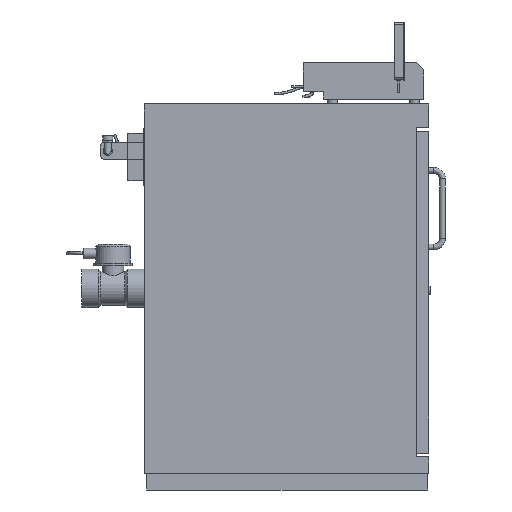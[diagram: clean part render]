
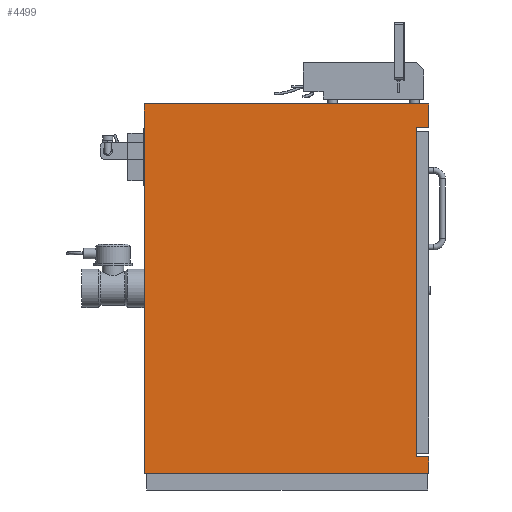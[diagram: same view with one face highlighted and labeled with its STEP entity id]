
A CAD part, left-side view. The second image highlights one B-rep face of the part: STEP entity #4499.
In plain terms, the highlighted planar face has unit normal (-1, 0, 0).
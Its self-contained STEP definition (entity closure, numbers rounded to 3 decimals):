
#971=ORIENTED_EDGE('',*,*,#1411,.F.);
#972=ORIENTED_EDGE('',*,*,#1412,.T.);
#973=ORIENTED_EDGE('',*,*,#1413,.T.);
#974=ORIENTED_EDGE('',*,*,#1398,.F.);
#975=ORIENTED_EDGE('',*,*,#1401,.F.);
#976=ORIENTED_EDGE('',*,*,#1403,.T.);
#977=ORIENTED_EDGE('',*,*,#1407,.T.);
#978=ORIENTED_EDGE('',*,*,#1409,.F.);
#1398=EDGE_CURVE('',#1702,#1699,#1956,.T.);
#1401=EDGE_CURVE('',#1704,#1702,#1959,.T.);
#1403=EDGE_CURVE('',#1704,#1706,#1961,.T.);
#1407=EDGE_CURVE('',#1706,#1708,#1965,.T.);
#1409=EDGE_CURVE('',#1710,#1708,#1967,.T.);
#1411=EDGE_CURVE('',#1711,#1710,#1969,.T.);
#1412=EDGE_CURVE('',#1711,#1712,#1970,.T.);
#1413=EDGE_CURVE('',#1712,#1699,#1971,.T.);
#1699=VERTEX_POINT('',#8082);
#1702=VERTEX_POINT('',#8087);
#1704=VERTEX_POINT('',#8093);
#1706=VERTEX_POINT('',#8098);
#1708=VERTEX_POINT('',#8105);
#1710=VERTEX_POINT('',#8110);
#1711=VERTEX_POINT('',#8115);
#1712=VERTEX_POINT('',#8117);
#1956=LINE('',#8088,#2214);
#1959=LINE('',#8094,#2217);
#1961=LINE('',#8099,#2219);
#1965=LINE('',#8106,#2223);
#1967=LINE('',#8111,#2225);
#1969=LINE('',#8114,#2227);
#1970=LINE('',#8116,#2228);
#1971=LINE('',#8118,#2229);
#2214=VECTOR('',#5645,1000.);
#2217=VECTOR('',#5650,1000.);
#2219=VECTOR('',#5654,1000.);
#2223=VECTOR('',#5660,1000.);
#2225=VECTOR('',#5664,1000.);
#2227=VECTOR('',#5668,1000.);
#2228=VECTOR('',#5669,1000.);
#2229=VECTOR('',#5670,1000.);
#2508=EDGE_LOOP('',(#971,#972,#973,#974,#975,#976,#977,#978));
#2796=FACE_BOUND('',#2508,.T.);
#2931=PLANE('',#4817);
#4499=ADVANCED_FACE('',(#2796),#2931,.F.);
#4817=AXIS2_PLACEMENT_3D('',#8113,#5666,#5667);
#5645=DIRECTION('',(0.,0.,-1.));
#5650=DIRECTION('',(0.,-1.,0.));
#5654=DIRECTION('',(0.,0.,-1.));
#5660=DIRECTION('',(0.,-1.,0.));
#5664=DIRECTION('',(0.,0.,-1.));
#5666=DIRECTION('',(1.,0.,0.));
#5667=DIRECTION('',(0.,0.,-1.));
#5668=DIRECTION('',(0.,-1.,0.));
#5669=DIRECTION('',(0.,0.,1.));
#5670=DIRECTION('',(0.,-1.,0.));
#8082=CARTESIAN_POINT('',(0.,0.,721.));
#8087=CARTESIAN_POINT('',(0.,0.,770.));
#8088=CARTESIAN_POINT('',(0.,0.,770.));
#8093=CARTESIAN_POINT('',(0.,593.5,770.));
#8094=CARTESIAN_POINT('',(0.,493.,770.));
#8098=CARTESIAN_POINT('',(0.,593.5,0.));
#8099=CARTESIAN_POINT('',(0.,593.5,596.));
#8105=CARTESIAN_POINT('',(0.,0.,0.));
#8106=CARTESIAN_POINT('',(0.,493.,0.));
#8110=CARTESIAN_POINT('',(0.,0.,34.));
#8111=CARTESIAN_POINT('',(0.,0.,596.));
#8113=CARTESIAN_POINT('',(0.,493.,596.));
#8114=CARTESIAN_POINT('',(0.,26.,34.));
#8115=CARTESIAN_POINT('',(0.,26.,34.));
#8116=CARTESIAN_POINT('',(0.,26.,547.));
#8117=CARTESIAN_POINT('',(0.,26.,721.));
#8118=CARTESIAN_POINT('',(0.,26.,721.));
